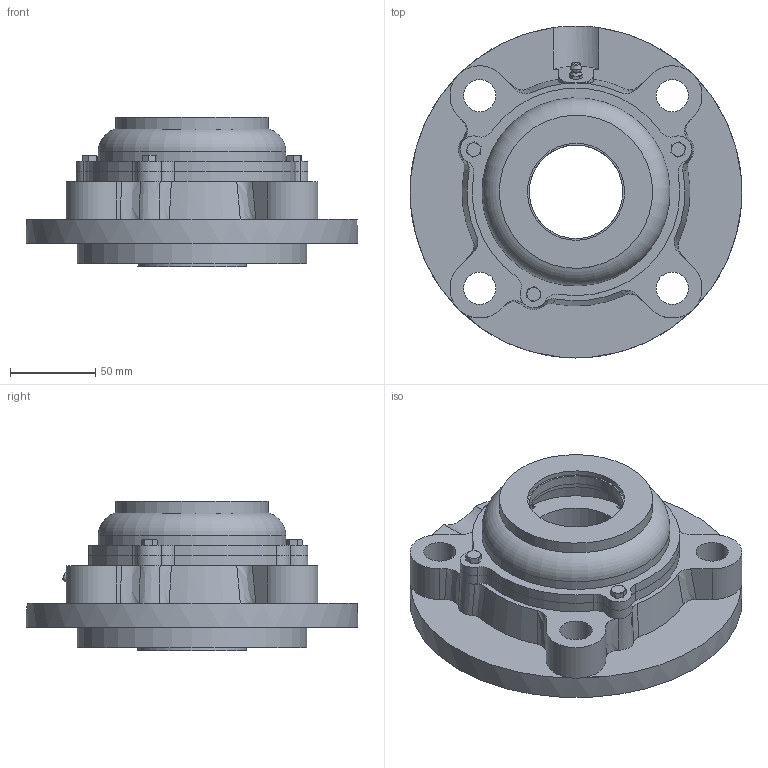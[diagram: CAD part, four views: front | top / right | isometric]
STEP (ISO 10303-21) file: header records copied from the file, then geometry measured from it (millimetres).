
FILE_DESCRIPTION((''),'2;1');
FILE_NAME('\\Ts-tgl068\j-cad-d-base\00.3DCADデータ作成フォルダ\02.フランジ形\CUKFC200\CUKFC212C+H.stp','2014-05-22T08:55:21',('btec_1106_2'),(''),'Autodesk Inventor 2012','Autodesk Inventor 2012','');
FILE_SCHEMA(('AUTOMOTIVE_DESIGN { 1 0 10303 214 1 1 1 1 }'));
Length unit declared in the file: millimetre
Products named in the file (7): CUKFC200C+H; CFC212; UK212; GU1; 212C55R; 212C55; M5X0
Assembly tree (8 placements, depth 3):
  CUKFC200C+H
    CFC212
    UK212
    GU1
    212C55R
      212C55
      M5X0  x3
Bounding box: 195 x 195 x 88 mm (x, y, z)
Volume: 854078.5 mm3; surface area: 182673.1 mm2
Topology: 7 solids, 7 shells, 325 faces, 804 edges, 511 vertices
Faces by surface type: plane 128, cylinder 97, cone 78, bspline 14, sphere 4, torus 4
Full cylindrical faces by diameter (mm): 4.134 x3, 5 x3, 5.359 x1, 6 x3, 6.35 x1, 19 x4, 55 x2, 57 x2, 60 x1, 77 x2, 90 x1, 108 x1, 110.5 x1, 112 x2, 135 x1, 195 x1
Entity records: 9171 total; most frequent: CARTESIAN_POINT 2446, DIRECTION 1365, ORIENTED_EDGE 1342, EDGE_CURVE 671, AXIS2_PLACEMENT_3D 570, VERTEX_POINT 447, EDGE_LOOP 374, FACE_OUTER_BOUND 291
